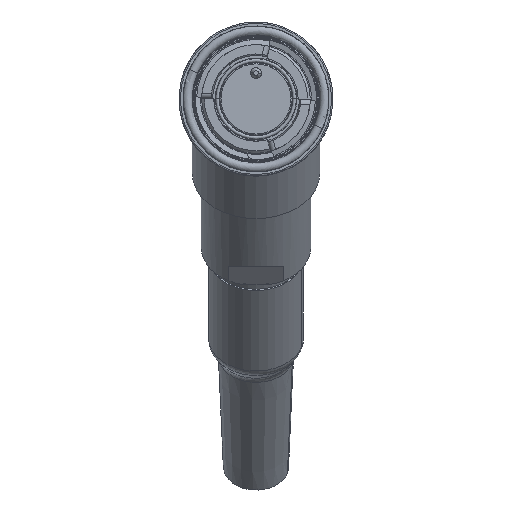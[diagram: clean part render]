
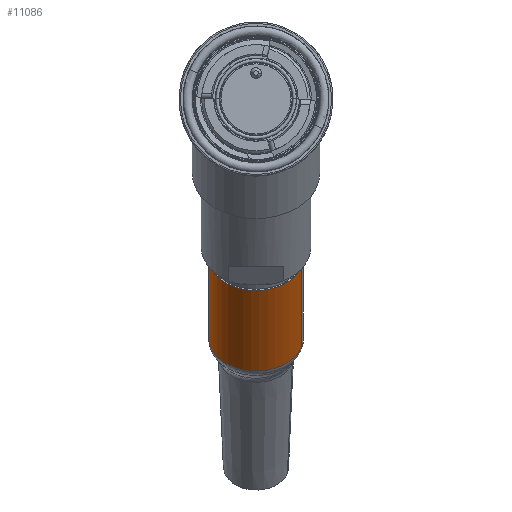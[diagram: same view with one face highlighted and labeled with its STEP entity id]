
A CAD part, top view. The second image highlights one B-rep face of the part: STEP entity #11086.
In plain terms, the highlighted cylindrical face has radius 8.763 mm (diameter 17.526 mm), a partial arc.
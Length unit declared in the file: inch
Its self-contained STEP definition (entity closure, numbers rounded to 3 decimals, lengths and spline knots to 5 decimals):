
#588 = ORIENTED_EDGE ( 'NONE', *, *, #9706, .T. ) ;
#624 = CARTESIAN_POINT ( 'NONE',  ( 0., -1.1414, -2.98923 ) ) ;
#1463 = VECTOR ( 'NONE', #3222, 39.37008 ) ;
#1543 = CARTESIAN_POINT ( 'NONE',  ( 0., -1.1414, -2.98923 ) ) ;
#1643 = CIRCLE ( 'NONE', #8078, 0.345 ) ;
#3097 = ORIENTED_EDGE ( 'NONE', *, *, #7200, .F. ) ;
#3153 = DIRECTION ( 'NONE',  ( 0., 0.707, 0.707 ) ) ;
#3222 = DIRECTION ( 'NONE',  ( 0., 0.707, 0.707 ) ) ;
#3330 = CARTESIAN_POINT ( 'NONE',  ( 0.33163, -1.20866, -2.92197 ) ) ;
#3449 = CARTESIAN_POINT ( 'NONE',  ( -0.33163, -1.07414, -3.05649 ) ) ;
#3860 = CARTESIAN_POINT ( 'NONE',  ( -0.33163, -1.07414, -3.05649 ) ) ;
#3873 = VERTEX_POINT ( 'NONE', #8157 ) ;
#3903 = VERTEX_POINT ( 'NONE', #3860 ) ;
#4106 = CYLINDRICAL_SURFACE ( 'NONE', #4633, 0.345 ) ;
#4455 = EDGE_LOOP ( 'NONE', ( #3097, #5542, #588, #6810 ) ) ;
#4564 = CIRCLE ( 'NONE', #8784, 0.345 ) ;
#4633 = AXIS2_PLACEMENT_3D ( 'NONE', #1543, #10382, #11177 ) ;
#5419 = CARTESIAN_POINT ( 'NONE',  ( 0.33163, -1.20866, -2.92197 ) ) ;
#5542 = ORIENTED_EDGE ( 'NONE', *, *, #7652, .T. ) ;
#5791 = DIRECTION ( 'NONE',  ( 0., 0.707, 0.707 ) ) ;
#5952 = EDGE_CURVE ( 'NONE', #3903, #10224, #4564, .T. ) ;
#6191 = DIRECTION ( 'NONE',  ( 0., 0.707, 0.707 ) ) ;
#6446 = VERTEX_POINT ( 'NONE', #8175 ) ;
#6810 = ORIENTED_EDGE ( 'NONE', *, *, #5952, .F. ) ;
#7200 = EDGE_CURVE ( 'NONE', #6446, #3903, #11384, .T. ) ;
#7652 = EDGE_CURVE ( 'NONE', #6446, #3873, #1643, .T. ) ;
#7686 = DIRECTION ( 'NONE',  ( 0.961, -0.195, 0.195 ) ) ;
#8071 = VECTOR ( 'NONE', #6191, 39.37008 ) ;
#8078 = AXIS2_PLACEMENT_3D ( 'NONE', #11048, #3153, #10185 ) ;
#8157 = CARTESIAN_POINT ( 'NONE',  ( 0.33163, -1.79133, -3.50464 ) ) ;
#8175 = CARTESIAN_POINT ( 'NONE',  ( -0.33163, -1.65681, -3.63916 ) ) ;
#8508 = FACE_OUTER_BOUND ( 'NONE', #4455, .T. ) ;
#8784 = AXIS2_PLACEMENT_3D ( 'NONE', #624, #5791, #7686 ) ;
#9706 = EDGE_CURVE ( 'NONE', #3873, #10224, #10370, .T. ) ;
#10185 = DIRECTION ( 'NONE',  ( 0.961, -0.195, 0.195 ) ) ;
#10224 = VERTEX_POINT ( 'NONE', #5419 ) ;
#10370 = LINE ( 'NONE', #3330, #1463 ) ;
#10382 = DIRECTION ( 'NONE',  ( 0., 0.707, 0.707 ) ) ;
#11048 = CARTESIAN_POINT ( 'NONE',  ( 0., -1.72407, -3.5719 ) ) ;
#11086 = ADVANCED_FACE ( 'NONE', ( #8508 ), #4106, .T. ) ;
#11177 = DIRECTION ( 'NONE',  ( 0.961, -0.195, 0.195 ) ) ;
#11384 = LINE ( 'NONE', #3449, #8071 ) ;
